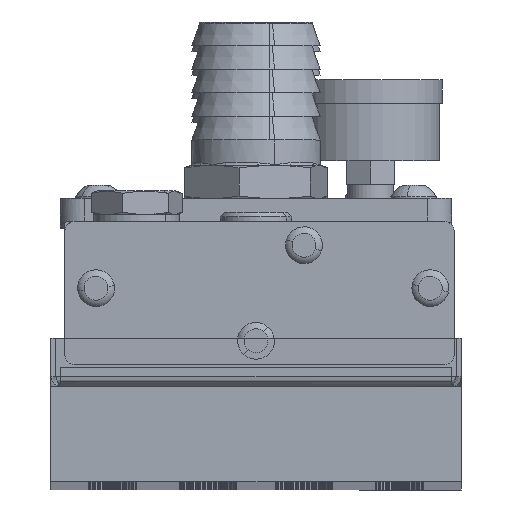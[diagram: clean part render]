
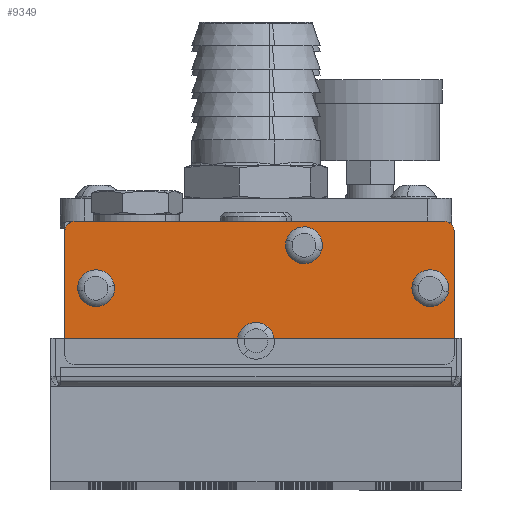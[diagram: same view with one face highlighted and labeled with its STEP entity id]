
A CAD part, top view. The second image highlights one B-rep face of the part: STEP entity #9349.
In plain terms, the highlighted planar face has unit normal (0, 0, 1).
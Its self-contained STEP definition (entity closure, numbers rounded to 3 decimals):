
#259 = CIRCLE ( 'NONE', #14999, 2. ) ;
#1930 = EDGE_CURVE ( 'NONE', #25028, #25026, #19632, .T. ) ;
#1931 = EDGE_CURVE ( 'NONE', #25026, #25024, #19637, .T. ) ;
#1966 = EDGE_CURVE ( 'NONE', #24905, #24904, #19550, .T. ) ;
#1969 = EDGE_CURVE ( 'NONE', #24893, #25028, #15693, .T. ) ;
#2573 = EDGE_CURVE ( 'NONE', #25560, #25561, #15526, .T. ) ;
#2575 = EDGE_CURVE ( 'NONE', #25556, #25557, #15523, .T. ) ;
#2579 = EDGE_CURVE ( 'NONE', #25552, #25553, #21225, .T. ) ;
#2581 = EDGE_CURVE ( 'NONE', #24904, #24893, #21224, .T. ) ;
#2583 = EDGE_CURVE ( 'NONE', #25548, #25549, #21226, .T. ) ;
#2585 = EDGE_CURVE ( 'NONE', #25022, #24877, #21311, .T. ) ;
#3114 = EDGE_CURVE ( 'NONE', #25024, #25022, #21182, .T. ) ;
#4192 = EDGE_CURVE ( 'NONE', #24877, #24905, #259, .T. ) ;
#4619 = EDGE_LOOP ( 'NONE', ( #29664, #29534 ) ) ;
#5402 = EDGE_LOOP ( 'NONE', ( #29416, #29465, #29441, #29466, #29516, #29568, #29649, #29596 ) ) ;
#5406 = EDGE_LOOP ( 'NONE', ( #29383, #29377 ) ) ;
#5409 = EDGE_LOOP ( 'NONE', ( #29528, #29542 ) ) ;
#5413 = EDGE_LOOP ( 'NONE', ( #29531, #29410 ) ) ;
#6140 = AXIS2_PLACEMENT_3D ( 'NONE', #7137, #7138, #7140 ) ;
#6141 = AXIS2_PLACEMENT_3D ( 'NONE', #7169, #7171, #7172 ) ;
#7137 = CARTESIAN_POINT ( 'NONE',  ( -138.428, -67.267, 466.082 ) ) ;
#7138 = DIRECTION ( 'NONE',  ( 0., 0., -1. ) ) ;
#7140 = DIRECTION ( 'NONE',  ( -1., 0., 0. ) ) ;
#7169 = CARTESIAN_POINT ( 'NONE',  ( -181.978, -76.267, 466.082 ) ) ;
#7171 = DIRECTION ( 'NONE',  ( 0., 0., -1. ) ) ;
#7172 = DIRECTION ( 'NONE',  ( -1., 0., 0. ) ) ;
#9349 = ADVANCED_FACE ( 'NONE', ( #28794, #28798, #28795, #28797, #28796 ), #27663, .F. ) ;
#9966 = CARTESIAN_POINT ( 'NONE',  ( -138.428, -67.267, 466.082 ) ) ;
#9967 = DIRECTION ( 'NONE',  ( 0., 0., -1. ) ) ;
#9968 = DIRECTION ( 'NONE',  ( -1., 0., 0. ) ) ;
#9971 = CARTESIAN_POINT ( 'NONE',  ( -181.978, -76.267, 466.082 ) ) ;
#9972 = DIRECTION ( 'NONE',  ( 0., 0., -1. ) ) ;
#9973 = DIRECTION ( 'NONE',  ( -1., 0., 0. ) ) ;
#9978 = CARTESIAN_POINT ( 'NONE',  ( -111.978, -76.267, 466.082 ) ) ;
#9979 = DIRECTION ( 'NONE',  ( 0., 0., -1. ) ) ;
#9980 = DIRECTION ( 'NONE',  ( -1., 0., 0. ) ) ;
#9981 = DIRECTION ( 'NONE',  ( -1., 0., 0. ) ) ;
#9982 = DIRECTION ( 'NONE',  ( 0., 0., 1. ) ) ;
#9984 = CARTESIAN_POINT ( 'NONE',  ( -186.478, -90.267, 466.082 ) ) ;
#9985 = DIRECTION ( 'NONE',  ( -1., 0., 0. ) ) ;
#9986 = CARTESIAN_POINT ( 'NONE',  ( -186.478, -62.267, 466.082 ) ) ;
#9987 = CARTESIAN_POINT ( 'NONE',  ( -148.478, -87.267, 466.082 ) ) ;
#9988 = DIRECTION ( 'NONE',  ( 0., 0., -1. ) ) ;
#9990 = DIRECTION ( 'NONE',  ( -1., 0., 0. ) ) ;
#12452 = AXIS2_PLACEMENT_3D ( 'NONE', #23133, #23132, #23136 ) ;
#13459 = EDGE_CURVE ( 'NONE', #25549, #25548, #27437, .T. ) ;
#13462 = EDGE_CURVE ( 'NONE', #25553, #25552, #27463, .T. ) ;
#13778 = AXIS2_PLACEMENT_3D ( 'NONE', #35825, #35826, #35827 ) ;
#14130 = EDGE_CURVE ( 'NONE', #25561, #25560, #33906, .T. ) ;
#14137 = EDGE_CURVE ( 'NONE', #25557, #25556, #33913, .T. ) ;
#14195 = AXIS2_PLACEMENT_3D ( 'NONE', #9971, #9972, #9973 ) ;
#14453 = AXIS2_PLACEMENT_3D ( 'NONE', #9987, #9988, #9990 ) ;
#14456 = AXIS2_PLACEMENT_3D ( 'NONE', #9984, #9982, #9985 ) ;
#14458 = AXIS2_PLACEMENT_3D ( 'NONE', #9978, #9979, #9980 ) ;
#14460 = AXIS2_PLACEMENT_3D ( 'NONE', #9966, #9967, #9968 ) ;
#14999 = AXIS2_PLACEMENT_3D ( 'NONE', #17892, #18453, #17890 ) ;
#15523 = CIRCLE ( 'NONE', #14195, 3.857 ) ;
#15526 = CIRCLE ( 'NONE', #14460, 3.857 ) ;
#15693 = LINE ( 'NONE', #35922, #15850 ) ;
#15850 = VECTOR ( 'NONE', #36095, 1000. ) ;
#17482 = CARTESIAN_POINT ( 'NONE',  ( -148.478, -87.267, 466.082 ) ) ;
#17483 = DIRECTION ( 'NONE',  ( 0., 0., -1. ) ) ;
#17484 = DIRECTION ( 'NONE',  ( -1., 0., 0. ) ) ;
#17494 = CARTESIAN_POINT ( 'NONE',  ( -111.978, -76.267, 466.082 ) ) ;
#17495 = DIRECTION ( 'NONE',  ( 0., 0., -1. ) ) ;
#17496 = DIRECTION ( 'NONE',  ( -1., 0., 0. ) ) ;
#17890 = DIRECTION ( 'NONE',  ( -1., 0., 0. ) ) ;
#17892 = CARTESIAN_POINT ( 'NONE',  ( -186.478, -64.267, 466.082 ) ) ;
#18453 = DIRECTION ( 'NONE',  ( 0., 0., 1. ) ) ;
#19550 = LINE ( 'NONE', #36056, #19591 ) ;
#19591 = VECTOR ( 'NONE', #36103, 1000. ) ;
#19624 = VECTOR ( 'NONE', #35820, 1000. ) ;
#19632 = CIRCLE ( 'NONE', #13778, 2. ) ;
#19637 = LINE ( 'NONE', #35824, #19624 ) ;
#21182 = CIRCLE ( 'NONE', #12452, 2. ) ;
#21224 = CIRCLE ( 'NONE', #14456, 2. ) ;
#21225 = CIRCLE ( 'NONE', #14458, 3.857 ) ;
#21226 = CIRCLE ( 'NONE', #14453, 3.857 ) ;
#21311 = LINE ( 'NONE', #9986, #21321 ) ;
#21321 = VECTOR ( 'NONE', #9981, 1000. ) ;
#23132 = DIRECTION ( 'NONE',  ( 0., 0., 1. ) ) ;
#23133 = CARTESIAN_POINT ( 'NONE',  ( -108.978, -64.267, 466.082 ) ) ;
#23136 = DIRECTION ( 'NONE',  ( 1., 0., 0. ) ) ;
#24877 = VERTEX_POINT ( 'NONE', #32438 ) ;
#24893 = VERTEX_POINT ( 'NONE', #32443 ) ;
#24904 = VERTEX_POINT ( 'NONE', #32449 ) ;
#24905 = VERTEX_POINT ( 'NONE', #32452 ) ;
#25022 = VERTEX_POINT ( 'NONE', #32458 ) ;
#25024 = VERTEX_POINT ( 'NONE', #32465 ) ;
#25026 = VERTEX_POINT ( 'NONE', #32462 ) ;
#25028 = VERTEX_POINT ( 'NONE', #32463 ) ;
#25548 = VERTEX_POINT ( 'NONE', #32704 ) ;
#25549 = VERTEX_POINT ( 'NONE', #32705 ) ;
#25552 = VERTEX_POINT ( 'NONE', #32708 ) ;
#25553 = VERTEX_POINT ( 'NONE', #32709 ) ;
#25556 = VERTEX_POINT ( 'NONE', #32711 ) ;
#25557 = VERTEX_POINT ( 'NONE', #32712 ) ;
#25560 = VERTEX_POINT ( 'NONE', #32715 ) ;
#25561 = VERTEX_POINT ( 'NONE', #32716 ) ;
#27437 = CIRCLE ( 'NONE', #35307, 3.857 ) ;
#27463 = CIRCLE ( 'NONE', #35299, 3.857 ) ;
#27663 = PLANE ( 'NONE',  #35227 ) ;
#27678 = CARTESIAN_POINT ( 'NONE',  ( -186.478, -64.267, 466.082 ) ) ;
#27680 = DIRECTION ( 'NONE',  ( 0., 0., -1. ) ) ;
#27682 = DIRECTION ( 'NONE',  ( -1., 0., 0. ) ) ;
#28794 = FACE_BOUND ( 'NONE', #5409, .T. ) ;
#28795 = FACE_BOUND ( 'NONE', #5413, .T. ) ;
#28796 = FACE_OUTER_BOUND ( 'NONE', #5402, .T. ) ;
#28797 = FACE_BOUND ( 'NONE', #5406, .T. ) ;
#28798 = FACE_BOUND ( 'NONE', #4619, .T. ) ;
#29377 = ORIENTED_EDGE ( 'NONE', *, *, #2573, .T. ) ;
#29383 = ORIENTED_EDGE ( 'NONE', *, *, #14130, .T. ) ;
#29410 = ORIENTED_EDGE ( 'NONE', *, *, #2575, .T. ) ;
#29416 = ORIENTED_EDGE ( 'NONE', *, *, #4192, .T. ) ;
#29441 = ORIENTED_EDGE ( 'NONE', *, *, #2581, .T. ) ;
#29465 = ORIENTED_EDGE ( 'NONE', *, *, #1966, .T. ) ;
#29466 = ORIENTED_EDGE ( 'NONE', *, *, #1969, .T. ) ;
#29516 = ORIENTED_EDGE ( 'NONE', *, *, #1930, .T. ) ;
#29528 = ORIENTED_EDGE ( 'NONE', *, *, #13459, .T. ) ;
#29531 = ORIENTED_EDGE ( 'NONE', *, *, #14137, .T. ) ;
#29534 = ORIENTED_EDGE ( 'NONE', *, *, #2579, .T. ) ;
#29542 = ORIENTED_EDGE ( 'NONE', *, *, #2583, .T. ) ;
#29568 = ORIENTED_EDGE ( 'NONE', *, *, #1931, .T. ) ;
#29596 = ORIENTED_EDGE ( 'NONE', *, *, #2585, .T. ) ;
#29649 = ORIENTED_EDGE ( 'NONE', *, *, #3114, .T. ) ;
#29664 = ORIENTED_EDGE ( 'NONE', *, *, #13462, .T. ) ;
#32438 = CARTESIAN_POINT ( 'NONE',  ( -186.478, -62.267, 466.082 ) ) ;
#32443 = CARTESIAN_POINT ( 'NONE',  ( -186.478, -92.267, 466.082 ) ) ;
#32449 = CARTESIAN_POINT ( 'NONE',  ( -188.478, -90.267, 466.082 ) ) ;
#32452 = CARTESIAN_POINT ( 'NONE',  ( -188.478, -64.267, 466.082 ) ) ;
#32458 = CARTESIAN_POINT ( 'NONE',  ( -108.978, -62.267, 466.082 ) ) ;
#32462 = CARTESIAN_POINT ( 'NONE',  ( -106.978, -90.267, 466.082 ) ) ;
#32463 = CARTESIAN_POINT ( 'NONE',  ( -108.978, -92.267, 466.082 ) ) ;
#32465 = CARTESIAN_POINT ( 'NONE',  ( -106.978, -64.267, 466.082 ) ) ;
#32704 = CARTESIAN_POINT ( 'NONE',  ( -151.05, -90.141, 466.082 ) ) ;
#32705 = CARTESIAN_POINT ( 'NONE',  ( -145.906, -84.393, 466.082 ) ) ;
#32708 = CARTESIAN_POINT ( 'NONE',  ( -115.753, -75.476, 466.082 ) ) ;
#32709 = CARTESIAN_POINT ( 'NONE',  ( -108.203, -77.057, 466.082 ) ) ;
#32711 = CARTESIAN_POINT ( 'NONE',  ( -185.796, -76.811, 466.082 ) ) ;
#32712 = CARTESIAN_POINT ( 'NONE',  ( -178.159, -75.722, 466.082 ) ) ;
#32715 = CARTESIAN_POINT ( 'NONE',  ( -142.112, -66.125, 466.082 ) ) ;
#32716 = CARTESIAN_POINT ( 'NONE',  ( -134.744, -68.408, 466.082 ) ) ;
#33906 = CIRCLE ( 'NONE', #6140, 3.857 ) ;
#33913 = CIRCLE ( 'NONE', #6141, 3.857 ) ;
#35227 = AXIS2_PLACEMENT_3D ( 'NONE', #27678, #27680, #27682 ) ;
#35299 = AXIS2_PLACEMENT_3D ( 'NONE', #17494, #17495, #17496 ) ;
#35307 = AXIS2_PLACEMENT_3D ( 'NONE', #17482, #17483, #17484 ) ;
#35820 = DIRECTION ( 'NONE',  ( 0., 1., 0. ) ) ;
#35824 = CARTESIAN_POINT ( 'NONE',  ( -106.978, -64.267, 466.082 ) ) ;
#35825 = CARTESIAN_POINT ( 'NONE',  ( -108.978, -90.267, 466.082 ) ) ;
#35826 = DIRECTION ( 'NONE',  ( 0., 0., 1. ) ) ;
#35827 = DIRECTION ( 'NONE',  ( 1., 0., 0. ) ) ;
#35922 = CARTESIAN_POINT ( 'NONE',  ( -186.478, -92.267, 466.082 ) ) ;
#36056 = CARTESIAN_POINT ( 'NONE',  ( -188.478, -64.267, 466.082 ) ) ;
#36095 = DIRECTION ( 'NONE',  ( 1., 0., 0. ) ) ;
#36103 = DIRECTION ( 'NONE',  ( 0., -1., 0. ) ) ;
